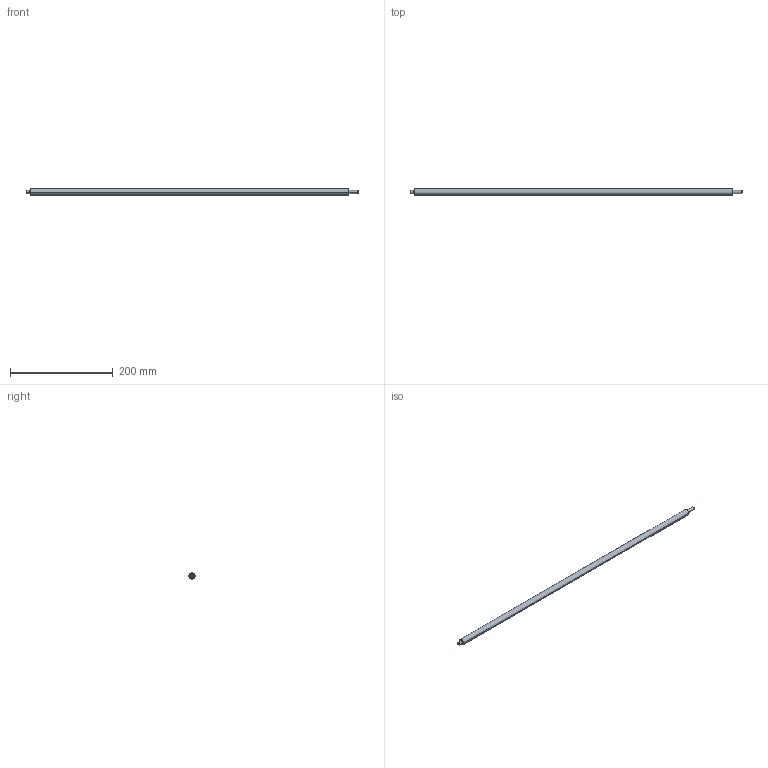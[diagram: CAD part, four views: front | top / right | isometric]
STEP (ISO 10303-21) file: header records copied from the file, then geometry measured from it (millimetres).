
FILE_DESCRIPTION(/* description */ (''),/* implementation_level */ '2;1');
FILE_NAME(/* name */ '6.y-drive#6.11#SFAJ12-620-F18-P6-T8',/* time_stamp */ '2014-12-01T20:16:24+01:00',/* author */ (''),/* organization */ (''),/* preprocessor_version */ 'ST-DEVELOPER v14',/* originating_system */ '',/* authorisation */ '');
FILE_SCHEMA (('AUTOMOTIVE_DESIGN'));
Length unit declared in the file: millimetre
Products named in the file (1): Document
Bounding box: 646 x 12 x 11.98 mm (x, y, z)
Volume: 71078.5 mm3; surface area: 24059.9 mm2
Topology: 1 solids, 1 shells, 22 faces, 46 edges, 28 vertices
Faces by surface type: bspline 18, plane 4
Entity records: 1600 total; most frequent: CARTESIAN_POINT 994, B_SPLINE_CURVE_WITH_KNOTS 94, ORIENTED_EDGE 92, PCURVE 92, DEFINITIONAL_REPRESENTATION 92, SURFACE_CURVE 46, EDGE_CURVE 46, VERTEX_POINT 28
